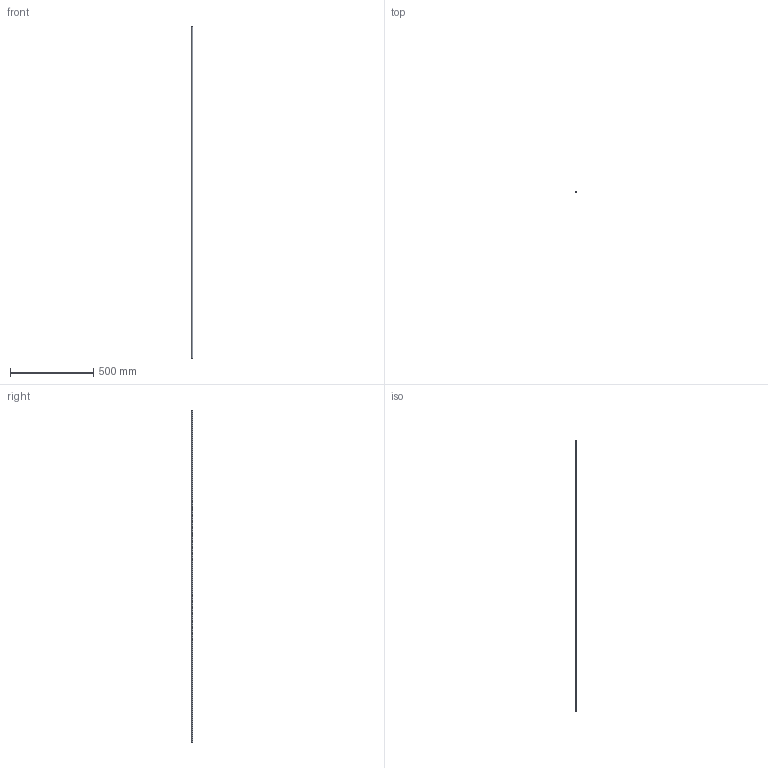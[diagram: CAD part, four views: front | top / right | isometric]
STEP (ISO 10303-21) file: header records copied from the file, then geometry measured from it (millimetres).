
FILE_DESCRIPTION (( 'STEP AP214' ), '1' );
FILE_NAME ('PCT8-2000.STEP', '2022-12-13T00:57:18', ( '' ), ( '' ), 'SwSTEP 2.0', 'SolidWorks 2018', '' );
FILE_SCHEMA (( 'AUTOMOTIVE_DESIGN' ));
Length unit declared in the file: millimetre
Products named in the file (1): PCT8-2000
Bounding box: 8 x 8 x 2000 mm (x, y, z)
Volume: 36191.1 mm3; surface area: 90514.1 mm2
Topology: 1 solids, 1 shells, 6 faces, 12 edges, 8 vertices
Faces by surface type: cylinder 4, plane 2
Entity records: 202 total; most frequent: DIRECTION 34, CARTESIAN_POINT 27, ORIENTED_EDGE 24, AXIS2_PLACEMENT_3D 15, EDGE_CURVE 12, VERTEX_POINT 8, CIRCLE 8, EDGE_LOOP 8
